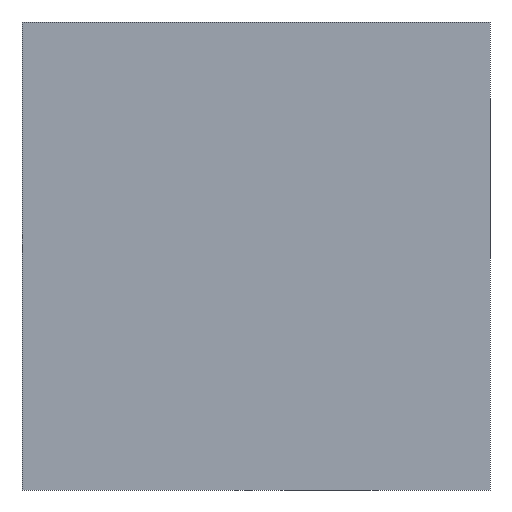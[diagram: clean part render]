
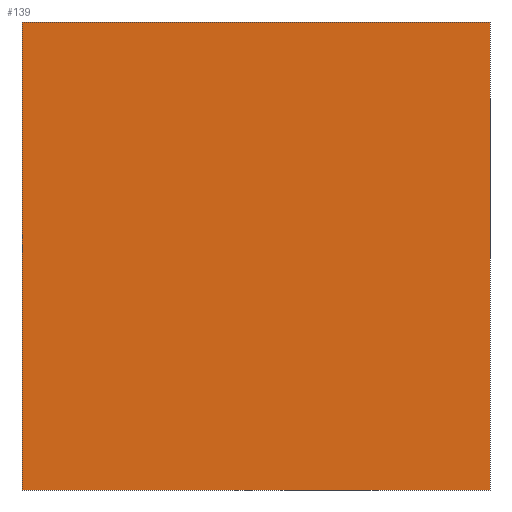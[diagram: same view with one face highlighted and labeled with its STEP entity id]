
A CAD part, front view. The second image highlights one B-rep face of the part: STEP entity #139.
In plain terms, the highlighted planar face has unit normal (0, -1, 0).
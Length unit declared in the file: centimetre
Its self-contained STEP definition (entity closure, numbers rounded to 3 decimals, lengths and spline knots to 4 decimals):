
#13 = CARTESIAN_POINT ( 'NONE',  ( 0., 0., 1000. ) ) ;
#16 = VECTOR ( 'NONE', #169, 100. ) ;
#32 = VERTEX_POINT ( 'NONE', #13 ) ;
#36 = ORIENTED_EDGE ( 'NONE', *, *, #184, .T. ) ;
#71 = DIRECTION ( 'NONE',  ( 0., 1., 0. ) ) ;
#90 = EDGE_CURVE ( 'NONE', #32, #151, #279, .T. ) ;
#110 = ORIENTED_EDGE ( 'NONE', *, *, #299, .F. ) ;
#113 = ORIENTED_EDGE ( 'NONE', *, *, #90, .T. ) ;
#124 = CARTESIAN_POINT ( 'NONE',  ( 0., 0., 1000. ) ) ;
#138 = VECTOR ( 'NONE', #158, 100. ) ;
#139 = ADVANCED_FACE ( 'NONE', ( #235 ), #393, .F. ) ;
#151 = VERTEX_POINT ( 'NONE', #218 ) ;
#158 = DIRECTION ( 'NONE',  ( 0., 0., -1. ) ) ;
#169 = DIRECTION ( 'NONE',  ( 1., 0., 0. ) ) ;
#184 = EDGE_CURVE ( 'NONE', #151, #346, #410, .T. ) ;
#191 = EDGE_LOOP ( 'NONE', ( #36, #338, #110, #113 ) ) ;
#198 = VECTOR ( 'NONE', #241, 100. ) ;
#201 = CARTESIAN_POINT ( 'NONE',  ( 1000., 0., 1000. ) ) ;
#203 = LINE ( 'NONE', #201, #198 ) ;
#215 = CARTESIAN_POINT ( 'NONE',  ( 0., 0., 0. ) ) ;
#218 = CARTESIAN_POINT ( 'NONE',  ( 0., 0., 0. ) ) ;
#235 = FACE_OUTER_BOUND ( 'NONE', #191, .T. ) ;
#241 = DIRECTION ( 'NONE',  ( 0., 0., -1. ) ) ;
#243 = LINE ( 'NONE', #284, #16 ) ;
#256 = CARTESIAN_POINT ( 'NONE',  ( 1000., 0., 1000. ) ) ;
#259 = DIRECTION ( 'NONE',  ( 0., 0., 1. ) ) ;
#279 = LINE ( 'NONE', #124, #138 ) ;
#284 = CARTESIAN_POINT ( 'NONE',  ( 0., 0., 1000. ) ) ;
#299 = EDGE_CURVE ( 'NONE', #32, #498, #243, .T. ) ;
#338 = ORIENTED_EDGE ( 'NONE', *, *, #432, .F. ) ;
#346 = VERTEX_POINT ( 'NONE', #365 ) ;
#365 = CARTESIAN_POINT ( 'NONE',  ( 1000., 0., 0. ) ) ;
#366 = AXIS2_PLACEMENT_3D ( 'NONE', #472, #71, #259 ) ;
#368 = DIRECTION ( 'NONE',  ( 1., 0., 0. ) ) ;
#393 = PLANE ( 'NONE',  #366 ) ;
#410 = LINE ( 'NONE', #215, #477 ) ;
#432 = EDGE_CURVE ( 'NONE', #498, #346, #203, .T. ) ;
#472 = CARTESIAN_POINT ( 'NONE',  ( 0., 0., 1000. ) ) ;
#477 = VECTOR ( 'NONE', #368, 100. ) ;
#498 = VERTEX_POINT ( 'NONE', #256 ) ;
